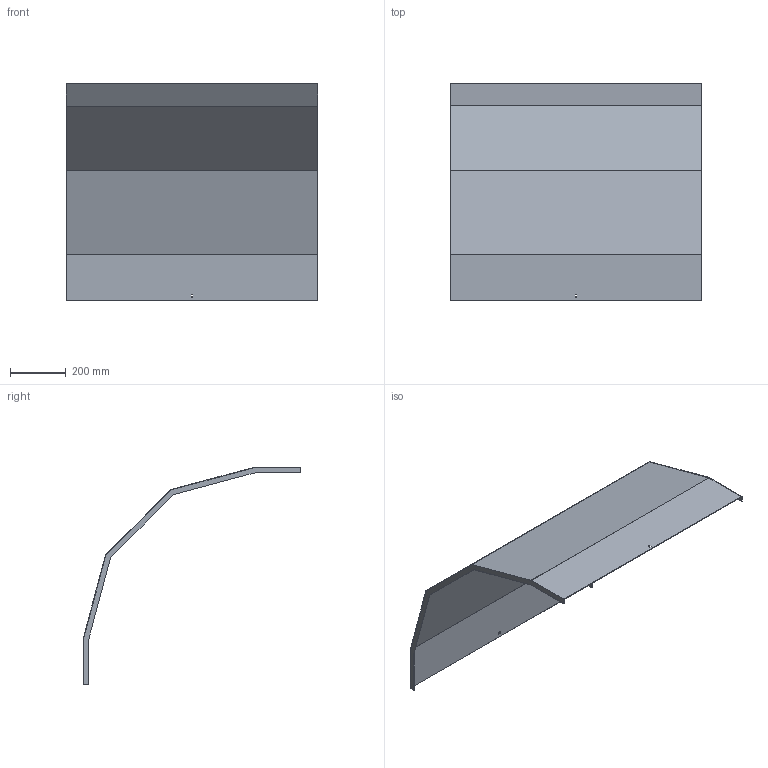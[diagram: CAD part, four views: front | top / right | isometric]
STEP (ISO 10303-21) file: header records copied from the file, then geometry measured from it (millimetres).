
FILE_DESCRIPTION (( 'STEP AP214' ), '1' );
FILE_NAME ('A2_33N5J900.step', '2025-02-21T10:46:17', ( '' ), ( '' ), 'SwSTEP 2.0', 'SolidWorks 2023', '' );
FILE_SCHEMA (( 'AUTOMOTIVE_DESIGN' ));
Length unit declared in the file: millimetre
Products named in the file (1): A2_33N5J900
Bounding box: 903 x 779.96 x 779.96 mm (x, y, z)
Volume: 1807642.1 mm3; surface area: 2416862.1 mm2
Topology: 1 solids, 1 shells, 34 faces, 96 edges, 64 vertices
Faces by surface type: plane 34
Entity records: 1111 total; most frequent: CARTESIAN_POINT 195, ORIENTED_EDGE 192, DIRECTION 166, VECTOR 96, EDGE_CURVE 96, LINE 96, VERTEX_POINT 64, EDGE_LOOP 38
